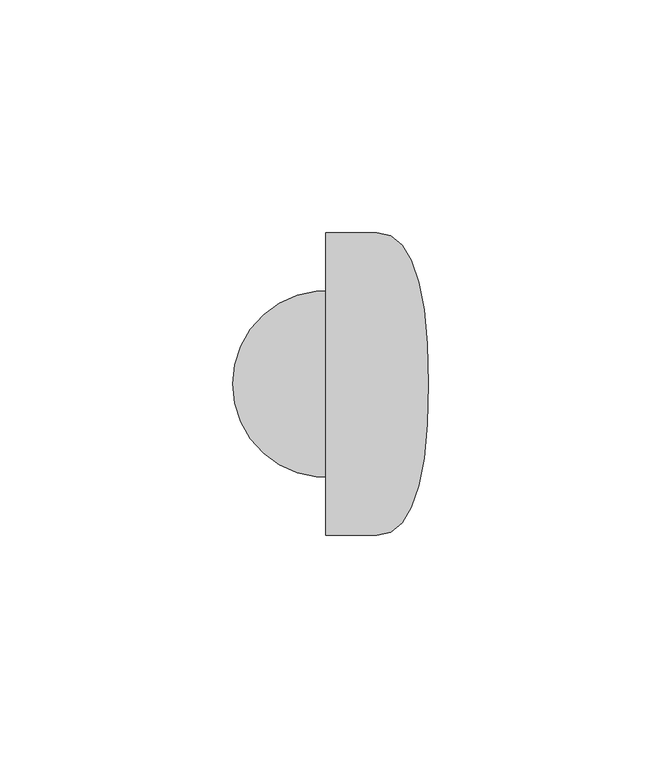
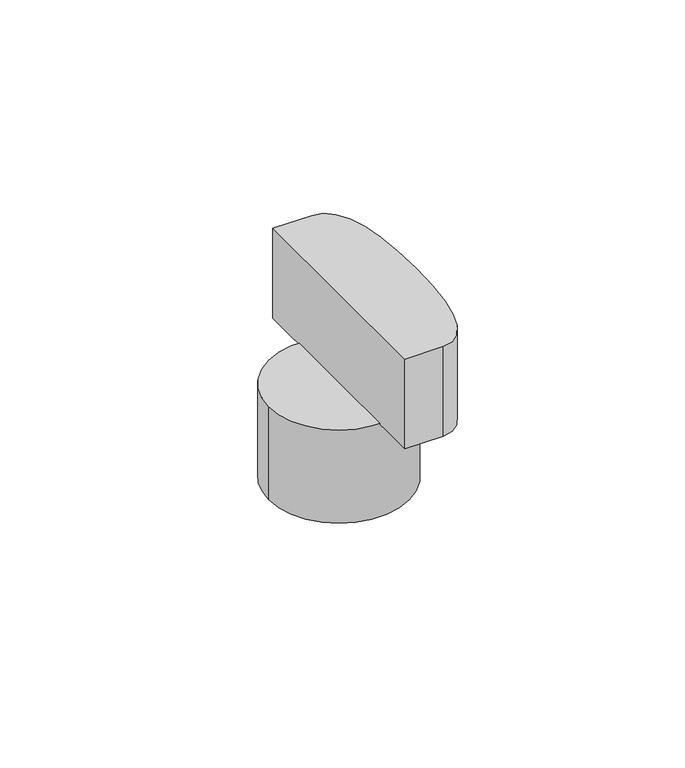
"""IFC4 building model written with IfcOpenShell, lengths in millimetres: sanitary terminal geometry, Z_DO_NOT_USE_NLRS_PF_52_UN_Slim Tube outgoing facing down_Easydrain : Slim Tube outgoing facing down."""

from ifc_helpers import new_model, si_unit, point, frame, frame_2d, origin, place, context, project, spatial, circle_curve, trimmed, segment, composite_curve, outline, extrude, source, transform, mapped, element, save
from ifc_brep_helpers import plane_surface, extruded_surface, spline_curve, advanced_brep


def sanitary_terminal_3b9aff7f(model_context):
    return source(origin(), model_context, "Body", "SolidModel", [
        extrude(outline(composite_curve([segment(trimmed(circle_curve(frame_2d((-11.0, 0.0)), 20.0), [point((-31.0, 0.0))], [point((9.0, 0.0))], False, "CARTESIAN"), True, "CONTINUOUS"), segment(trimmed(circle_curve(frame_2d((-11.0, 0.0)), 20.0), [point((9.0, 0.0))], [point((-31.0, 0.0))], False, "CARTESIAN"), True, "CONTINUOUS")], self_intersect=False)), frame((0.0, 0.0, -838.0), z_axis=(0.0, 0.0, 1.0), x_axis=(1.0, 0.0, 0.0)), (0.0, 0.0, 1.0), 28.0),
        advanced_brep(
        [(0.0, 32.5, -783.0), (-11.0, 32.5, -783.0), (-11.0, -32.5, -783.0), (0.0, -32.5, -783.0), (11.0, 0.0, -783.0), (0.0, 32.5, -810.0), (11.0, 0.0, -810.0), (0.0, -32.5, -810.0), (-11.0, -32.5, -810.0), (-11.0, 32.5, -810.0)],
        [
            (0, 1),
            (1, 2),
            (2, 3),
            (3, 4, spline_curve(3, [(0.0, -32.5, -783.0), (7.333333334, -32.5, -783.0), (11.0, -21.666666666, -783.0), (11.0, 0.0, -783.0)], [4, 4], [0.0, 0.07135826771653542])),
            (4, 0, spline_curve(3, [(11.0, 0.0, -783.0), (11.0, 21.666666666, -783.0), (7.333333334, 32.5, -783.0), (0.0, 32.5, -783.0)], [4, 4], [0.0, 0.07135826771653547])),
            (5, 6, spline_curve(3, [(0.0, 32.5, -810.0), (7.333333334, 32.5, -810.0), (11.0, 21.666666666, -810.0), (11.0, 0.0, -810.0)], [4, 4], [0.0, 0.07135826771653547])),
            (6, 7, spline_curve(3, [(11.0, 0.0, -810.0), (11.0, -21.666666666, -810.0), (7.333333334, -32.5, -810.0), (0.0, -32.5, -810.0)], [4, 4], [0.0, 0.07135826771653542])),
            (7, 8),
            (8, 9),
            (9, 5),
            (4, 6),
            (5, 0),
            (3, 7),
            (2, 8),
            (1, 9),
        ],
        [
            plane_surface(frame((0.0, 0.0, -783.0), z_axis=(0.0, 0.0, 1.0), x_axis=(0.0, -1.0, 0.0))),
            plane_surface(frame((0.0, 0.0, -810.0), z_axis=(0.0, 0.0, -1.0), x_axis=(0.0, -1.0, 0.0))),
            extruded_surface(spline_curve(3, [(11.0, 0.0, -810.0), (11.0, 21.666666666, -810.0), (7.333333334, 32.5, -810.0), (0.0, 32.5, -810.0)], [4, 4], [0.0, 0.07135826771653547]), (0.0, 0.0, 27.0), 27.0),
            extruded_surface(spline_curve(3, [(0.0, -32.5, -810.0), (7.333333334, -32.5, -810.0), (11.0, -21.666666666, -810.0), (11.0, 0.0, -810.0)], [4, 4], [0.0, 0.07135826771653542]), (0.0, 0.0, 27.0), 27.0),
            plane_surface(frame((-11.0, -32.5, -783.0), z_axis=(0.0, -1.0, 0.0), x_axis=(0.0, 0.0, -1.0))),
            plane_surface(frame((-11.0, 32.5, -783.0), z_axis=(-1.0, 0.0, 0.0), x_axis=(0.0, 0.0, -1.0))),
            plane_surface(frame((0.0, 32.5, -783.0), z_axis=(0.0, 1.0, 0.0), x_axis=(0.0, 0.0, -1.0))),
        ],
        [
            (0, [[1, 2, 3, 4, 5]]),
            (1, [[6, 7, 8, 9, 10]]),
            (2, [[-5, 11, -6, 12]]),
            (3, [[-4, 13, -7, -11]]),
            (4, [[-3, 14, -8, -13]]),
            (5, [[-2, 15, -9, -14]]),
            (6, [[-1, -12, -10, -15]]),
        ],
    ),
    ])


if __name__ == "__main__":
    model = new_model("IFC4")
    model_context = context("Model", 3, world=origin())
    ifc_project = project(units=[si_unit("LENGTHUNIT", "METRE", prefix="MILLI")], contexts=[model_context])
    site = spatial("IfcSite", under=ifc_project)
    building = spatial("IfcBuilding", under=site)
    placement = place(None, origin())
    sanitary_terminal_shape = sanitary_terminal_3b9aff7f(model_context)
    element("IfcSanitaryTerminal", 1, ObjectType="Z_DO_NOT_USE_NLRS_PF_52_UN_Slim Tube outgoing facing down_Easydrain : Slim Tube outgoing facing down", at=placement, inside=building, context=model_context, shape_type="MappedRepresentation", body=[
        mapped(sanitary_terminal_shape, transform((0.0, 0.0, 0.0), x_axis=(1.0, 0.0, 0.0), y_axis=(0.0, 1.0, 0.0), z_axis=(0.0, 0.0, 1.0))),
    ])
    save(model, "model.ifc")
